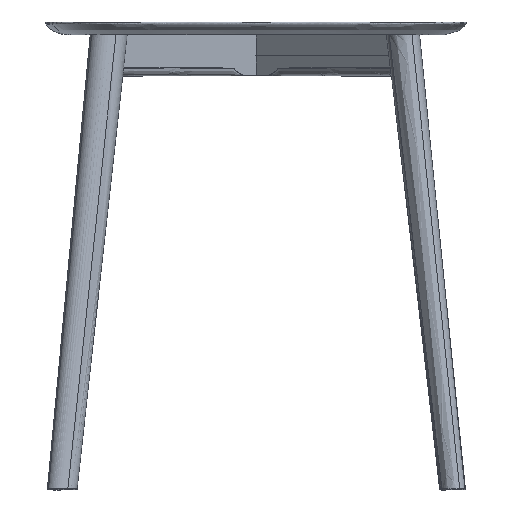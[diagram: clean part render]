
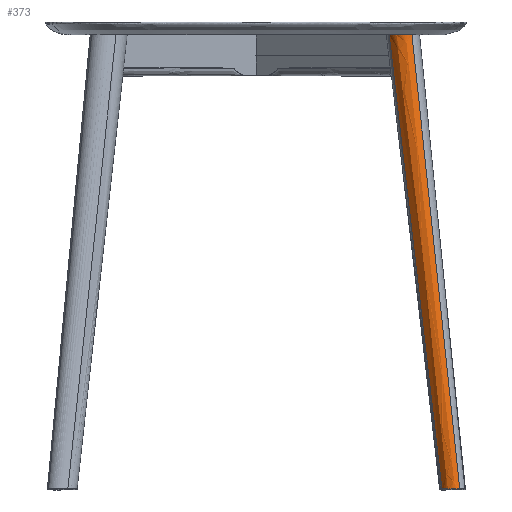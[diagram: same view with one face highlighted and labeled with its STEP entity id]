
A CAD part, left-side view. The second image highlights one B-rep face of the part: STEP entity #373.
In plain terms, the highlighted free-form (B-spline) face has degree [3, 1] with [18, 2] control points.
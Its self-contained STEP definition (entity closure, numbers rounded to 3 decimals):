
#55=B_SPLINE_SURFACE_WITH_KNOTS('',3,1,((#20018,#20019),(#20020,#20021),
(#20022,#20023),(#20024,#20025),(#20026,#20027),(#20028,#20029),(#20030,
#20031),(#20032,#20033),(#20034,#20035),(#20036,#20037),(#20038,#20039),
(#20040,#20041),(#20042,#20043),(#20044,#20045),(#20046,#20047),(#20048,
#20049),(#20050,#20051),(#20052,#20053)),.UNSPECIFIED.,.F.,.F.,.F.,(4,2,
2,2,2,2,2,2,4),(2,2),(0.,5.357,10.714,16.071,
21.427,26.784,32.141,37.498,42.855),
(0.,935.286),.UNSPECIFIED.);
#373=ADVANCED_FACE('',(#453),#55,.T.);
#453=FACE_OUTER_BOUND('',#533,.T.);
#533=EDGE_LOOP('',(#828,#829,#830,#831));
#828=ORIENTED_EDGE('',*,*,#2917,.T.);
#829=ORIENTED_EDGE('',*,*,#2918,.T.);
#830=ORIENTED_EDGE('',*,*,#2919,.T.);
#831=ORIENTED_EDGE('',*,*,#2920,.T.);
#1195=PCURVE('',#55,#1562);
#1196=PCURVE('',#55,#1563);
#1197=PCURVE('',#55,#1564);
#1198=PCURVE('',#55,#1565);
#1562=DEFINITIONAL_REPRESENTATION('',(#2136),#22460);
#1563=DEFINITIONAL_REPRESENTATION('',(#2138),#22460);
#1564=DEFINITIONAL_REPRESENTATION('',(#2140),#22460);
#1565=DEFINITIONAL_REPRESENTATION('',(#2142),#22460);
#2135=B_SPLINE_CURVE_WITH_KNOTS('',1,(#20058,#20059),.UNSPECIFIED.,.F.,
 .F.,(2,2),(-712.816,0.),.UNSPECIFIED.);
#2136=B_SPLINE_CURVE_WITH_KNOTS('',1,(#20060,#20061),.UNSPECIFIED.,.F.,
 .F.,(2,2),(-712.816,0.),.UNSPECIFIED.);
#2137=B_SPLINE_CURVE_WITH_KNOTS('',3,(#20062,#20063,#20064,#20065,#20066,
#20067,#20068,#20069,#20070,#20071,#20072,#20073,#20074,#20075,#20076,#20077,
#20078,#20079),.UNSPECIFIED.,.F.,.F.,(4,2,2,2,2,2,2,2,4),(0.,5.357,
10.714,16.071,21.427,26.784,32.141,
37.498,42.855),.UNSPECIFIED.);
#2138=B_SPLINE_CURVE_WITH_KNOTS('',1,(#20080,#20081),.UNSPECIFIED.,.F.,
 .F.,(2,2),(0.,42.855),.UNSPECIFIED.);
#2139=B_SPLINE_CURVE_WITH_KNOTS('',1,(#20082,#20083),.UNSPECIFIED.,.F.,
 .F.,(2,2),(0.,714.268),.UNSPECIFIED.);
#2140=B_SPLINE_CURVE_WITH_KNOTS('',1,(#20084,#20085),.UNSPECIFIED.,.F.,
 .F.,(2,2),(0.,714.268),.UNSPECIFIED.);
#2141=B_SPLINE_CURVE_WITH_KNOTS('',3,(#20086,#20087,#20088,#20089,#20090,
#20091,#20092,#20093,#20094,#20095,#20096,#20097,#20098,#20099,#20100,#20101,
#20102,#20103),.UNSPECIFIED.,.F.,.F.,(4,2,2,2,2,2,2,2,4),(-0.034,
-0.029,-0.025,-0.021,-0.017,
-0.013,-0.008,-0.004,0.),
 .UNSPECIFIED.);
#2142=B_SPLINE_CURVE_WITH_KNOTS('',3,(#20104,#20105,#20106,#20107,#20108,
#20109,#20110,#20111,#20112,#20113,#20114,#20115,#20116,#20117,#20118,#20119,
#20120,#20121,#20122),.UNSPECIFIED.,.F.,.F.,(4,3,3,3,3,3,4),(-0.034,
-0.028,-0.02,-0.016,-0.011,
-0.006,0.),.UNSPECIFIED.);
#2551=SURFACE_CURVE('',#2135,(#1195),.PCURVE_S1.);
#2552=SURFACE_CURVE('',#2137,(#1196),.PCURVE_S1.);
#2553=SURFACE_CURVE('',#2139,(#1197),.PCURVE_S1.);
#2554=SURFACE_CURVE('',#2141,(#1198),.PCURVE_S1.);
#2917=EDGE_CURVE('',#3397,#3395,#2551,.T.);
#2918=EDGE_CURVE('',#3395,#3396,#2552,.T.);
#2919=EDGE_CURVE('',#3396,#3398,#2553,.T.);
#2920=EDGE_CURVE('',#3398,#3397,#2554,.T.);
#3395=VERTEX_POINT('',#20054);
#3396=VERTEX_POINT('',#20055);
#3397=VERTEX_POINT('',#20056);
#3398=VERTEX_POINT('',#20057);
#20018=CARTESIAN_POINT('',(-255.66,-242.555,56.201));
#20019=CARTESIAN_POINT('',(-343.817,-340.121,-869.796));
#20020=CARTESIAN_POINT('',(-256.287,-241.364,56.201));
#20021=CARTESIAN_POINT('',(-344.181,-339.423,-869.769));
#20022=CARTESIAN_POINT('',(-256.796,-240.062,56.201));
#20023=CARTESIAN_POINT('',(-344.497,-338.615,-869.735));
#20024=CARTESIAN_POINT('',(-257.549,-237.297,56.201));
#20025=CARTESIAN_POINT('',(-344.973,-336.828,-869.656));
#20026=CARTESIAN_POINT('',(-257.792,-235.833,56.201));
#20027=CARTESIAN_POINT('',(-345.134,-335.85,-869.612));
#20028=CARTESIAN_POINT('',(-257.982,-232.796,56.201));
#20029=CARTESIAN_POINT('',(-345.254,-333.778,-869.514));
#20030=CARTESIAN_POINT('',(-257.93,-231.224,56.201));
#20031=CARTESIAN_POINT('',(-345.214,-332.685,-869.46));
#20032=CARTESIAN_POINT('',(-257.499,-228.027,56.201));
#20033=CARTESIAN_POINT('',(-344.901,-330.437,-869.344));
#20034=CARTESIAN_POINT('',(-257.12,-226.403,56.201));
#20035=CARTESIAN_POINT('',(-344.629,-329.282,-869.282));
#20036=CARTESIAN_POINT('',(-256.008,-223.157,56.201));
#20037=CARTESIAN_POINT('',(-343.822,-326.948,-869.152));
#20038=CARTESIAN_POINT('',(-255.274,-221.535,56.201));
#20039=CARTESIAN_POINT('',(-343.287,-325.769,-869.083));
#20040=CARTESIAN_POINT('',(-253.421,-218.351,56.201));
#20041=CARTESIAN_POINT('',(-341.916,-323.419,-868.943));
#20042=CARTESIAN_POINT('',(-252.302,-216.788,56.201));
#20043=CARTESIAN_POINT('',(-341.079,-322.248,-868.871));
#20044=CARTESIAN_POINT('',(-249.648,-213.777,56.201));
#20045=CARTESIAN_POINT('',(-339.05,-319.944,-868.73));
#20046=CARTESIAN_POINT('',(-248.114,-212.328,56.201));
#20047=CARTESIAN_POINT('',(-337.857,-318.812,-868.661));
#20048=CARTESIAN_POINT('',(-244.601,-209.6,56.201));
#20049=CARTESIAN_POINT('',(-335.053,-316.629,-868.528));
#20050=CARTESIAN_POINT('',(-242.621,-208.321,56.201));
#20051=CARTESIAN_POINT('',(-333.442,-315.58,-868.466));
#20052=CARTESIAN_POINT('',(-240.405,-207.154,56.201));
#20053=CARTESIAN_POINT('',(-331.589,-314.601,-868.408));
#20054=CARTESIAN_POINT('',(-255.66,-242.555,56.201));
#20055=CARTESIAN_POINT('',(-240.405,-207.154,56.201));
#20056=CARTESIAN_POINT('',(-322.848,-316.913,-649.535));
#20057=CARTESIAN_POINT('',(-310.042,-289.21,-649.913));
#20058=CARTESIAN_POINT('',(-322.848,-316.913,-649.535));
#20059=CARTESIAN_POINT('',(-255.66,-242.555,56.201));
#20060=CARTESIAN_POINT('',(0.,712.816));
#20061=CARTESIAN_POINT('',(0.,0.));
#20062=CARTESIAN_POINT('',(-255.66,-242.555,56.201));
#20063=CARTESIAN_POINT('',(-256.287,-241.364,56.201));
#20064=CARTESIAN_POINT('',(-256.796,-240.062,56.201));
#20065=CARTESIAN_POINT('',(-257.549,-237.297,56.201));
#20066=CARTESIAN_POINT('',(-257.792,-235.833,56.201));
#20067=CARTESIAN_POINT('',(-257.982,-232.796,56.201));
#20068=CARTESIAN_POINT('',(-257.93,-231.224,56.201));
#20069=CARTESIAN_POINT('',(-257.499,-228.027,56.201));
#20070=CARTESIAN_POINT('',(-257.12,-226.403,56.201));
#20071=CARTESIAN_POINT('',(-256.008,-223.157,56.201));
#20072=CARTESIAN_POINT('',(-255.274,-221.535,56.201));
#20073=CARTESIAN_POINT('',(-253.421,-218.351,56.201));
#20074=CARTESIAN_POINT('',(-252.302,-216.789,56.201));
#20075=CARTESIAN_POINT('',(-249.648,-213.777,56.201));
#20076=CARTESIAN_POINT('',(-248.114,-212.328,56.201));
#20077=CARTESIAN_POINT('',(-244.601,-209.6,56.201));
#20078=CARTESIAN_POINT('',(-242.621,-208.321,56.201));
#20079=CARTESIAN_POINT('',(-240.405,-207.154,56.201));
#20080=CARTESIAN_POINT('',(0.,0.));
#20081=CARTESIAN_POINT('',(42.855,0.));
#20082=CARTESIAN_POINT('',(-240.405,-207.154,56.201));
#20083=CARTESIAN_POINT('',(-310.042,-289.21,-649.913));
#20084=CARTESIAN_POINT('',(42.855,0.));
#20085=CARTESIAN_POINT('',(42.855,714.268));
#20086=CARTESIAN_POINT('',(-310.042,-289.21,-649.913));
#20087=CARTESIAN_POINT('',(-311.974,-290.226,-649.897));
#20088=CARTESIAN_POINT('',(-313.666,-291.322,-649.88));
#20089=CARTESIAN_POINT('',(-316.623,-293.617,-649.844));
#20090=CARTESIAN_POINT('',(-317.889,-294.815,-649.825));
#20091=CARTESIAN_POINT('',(-320.051,-297.268,-649.787));
#20092=CARTESIAN_POINT('',(-320.947,-298.523,-649.768));
#20093=CARTESIAN_POINT('',(-322.421,-301.055,-649.729));
#20094=CARTESIAN_POINT('',(-322.997,-302.332,-649.711));
#20095=CARTESIAN_POINT('',(-323.864,-304.867,-649.675));
#20096=CARTESIAN_POINT('',(-324.155,-306.126,-649.658));
#20097=CARTESIAN_POINT('',(-324.484,-308.585,-649.627));
#20098=CARTESIAN_POINT('',(-324.522,-309.785,-649.612));
#20099=CARTESIAN_POINT('',(-324.377,-312.077,-649.585));
#20100=CARTESIAN_POINT('',(-324.192,-313.167,-649.573));
#20101=CARTESIAN_POINT('',(-323.642,-315.18,-649.552));
#20102=CARTESIAN_POINT('',(-323.277,-316.101,-649.543));
#20103=CARTESIAN_POINT('',(-322.848,-316.913,-649.535));
#20104=CARTESIAN_POINT('',(42.855,714.268));
#20105=CARTESIAN_POINT('',(40.278,714.181));
#20106=CARTESIAN_POINT('',(37.702,714.083));
#20107=CARTESIAN_POINT('',(35.125,713.979));
#20108=CARTESIAN_POINT('',(31.94,713.851));
#20109=CARTESIAN_POINT('',(28.756,713.715));
#20110=CARTESIAN_POINT('',(25.571,713.585));
#20111=CARTESIAN_POINT('',(23.737,713.511));
#20112=CARTESIAN_POINT('',(21.904,713.438));
#20113=CARTESIAN_POINT('',(20.07,713.37));
#20114=CARTESIAN_POINT('',(18.071,713.295));
#20115=CARTESIAN_POINT('',(16.071,713.226));
#20116=CARTESIAN_POINT('',(14.072,713.162));
#20117=CARTESIAN_POINT('',(11.881,713.091));
#20118=CARTESIAN_POINT('',(9.69,713.028));
#20119=CARTESIAN_POINT('',(7.499,712.973));
#20120=CARTESIAN_POINT('',(5.,712.909));
#20121=CARTESIAN_POINT('',(2.5,712.855));
#20122=CARTESIAN_POINT('',(0.,712.816));
#22460=(
GEOMETRIC_REPRESENTATION_CONTEXT(2)
PARAMETRIC_REPRESENTATION_CONTEXT()
REPRESENTATION_CONTEXT('pspace','')
);
